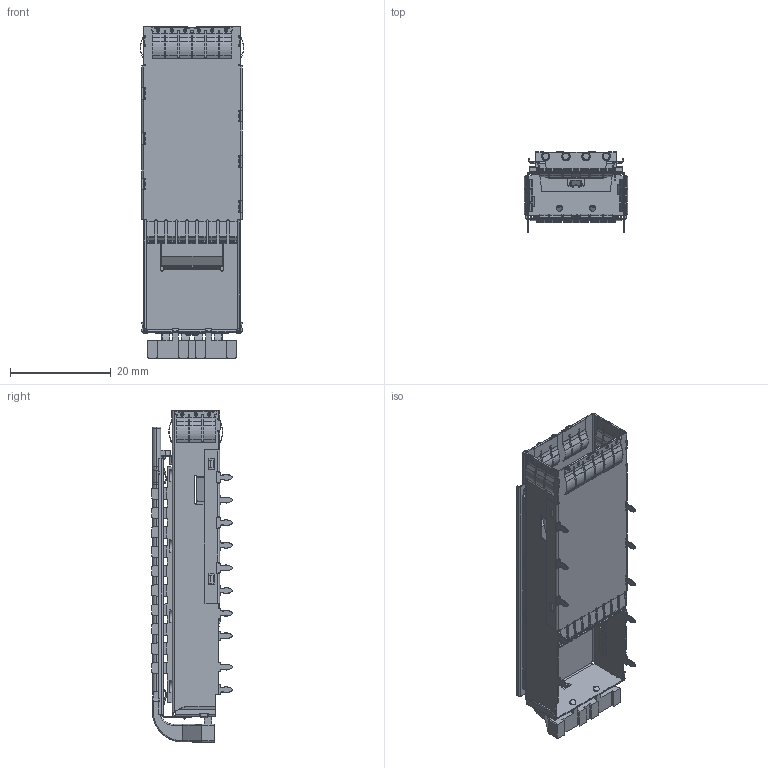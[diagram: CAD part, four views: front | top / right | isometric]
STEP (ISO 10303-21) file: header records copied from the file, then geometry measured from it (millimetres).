
FILE_DESCRIPTION (( 'STEP AP214' ), '1' );
FILE_NAME ('SZ10-02130C0000-0000-X.STEP', '2021-06-17T03:43:49', ( '' ), ( '' ), 'SwSTEP 2.0', 'SolidWorks 2012', '' );
FILE_SCHEMA (( 'AUTOMOTIVE_DESIGN' ));
Products named in the file (8): SZ10-S130_1xN side spring ass''y; SZ10-S120_ass''y for SZ10; SZ10-S130_1x1 top&bottom spring ass''y; SZ10-P110_4Lightpipe; SZ10-S110-1_2.25-no back Leg-方孔-heatsink限位-Lightpipe定位孔ass''y; SZ10-02130C0000-0000-X; SZ10-S150_ass''y; SZ10-SH10_H=4
Assembly tree (9 placements, depth 2):
  SZ10-02130C0000-0000-X
    SZ10-S110-1_2.25-no back Leg-方孔-heatsink限位-Lightpipe定位孔ass''y
    SZ10-S120_ass''y for SZ10
    SZ10-S130_1x1 top&bottom spring ass''y  x2
    SZ10-S130_1xN side spring ass''y  x2
    SZ10-SH10_H=4
    SZ10-P110_4Lightpipe
    SZ10-S150_ass''y
Bounding box: 20.55 x 15.95 x 66 mm (x, y, z)
Volume: 3371.4 mm3; surface area: 12835.7 mm2
Topology: 9 solids, 9 shells, 3287 faces, 8537 edges, 5239 vertices
Faces by surface type: plane 1804, cylinder 1194, torus 117, bspline 100, sphere 72
Entity records: 89648 total; most frequent: CARTESIAN_POINT 19843, ORIENTED_EDGE 14728, DIRECTION 14598, EDGE_CURVE 7364, AXIS2_PLACEMENT_3D 4944, LINE 4710, VECTOR 4710, VERTEX_POINT 4567
